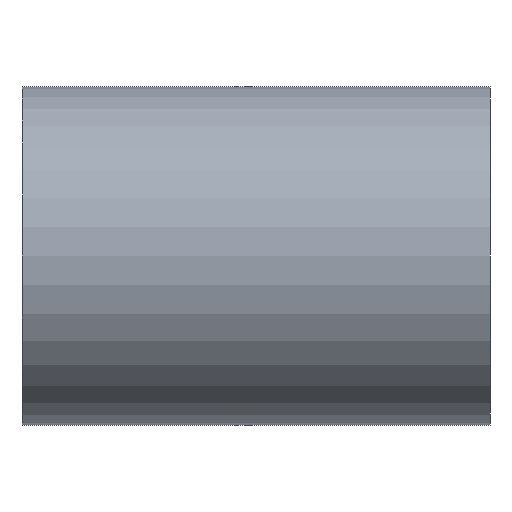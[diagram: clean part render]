
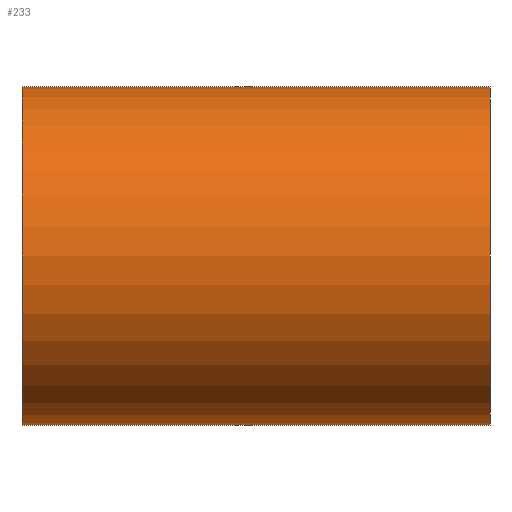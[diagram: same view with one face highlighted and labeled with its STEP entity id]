
A CAD part, left-side view. The second image highlights one B-rep face of the part: STEP entity #233.
In plain terms, the highlighted cylindrical face has radius 107.95 mm (diameter 215.9 mm), a partial arc.
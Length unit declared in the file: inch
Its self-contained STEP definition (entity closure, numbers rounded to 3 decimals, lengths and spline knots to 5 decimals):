
#8 = VERTEX_POINT ( 'NONE', #224 ) ;
#17 = AXIS2_PLACEMENT_3D ( 'NONE', #203, #185, #152 ) ;
#18 = CARTESIAN_POINT ( 'NONE',  ( 0., 11.75, -4.25 ) ) ;
#20 = VECTOR ( 'NONE', #111, 39.37008 ) ;
#44 = LINE ( 'NONE', #155, #20 ) ;
#51 = DIRECTION ( 'NONE',  ( 0., -1., 0. ) ) ;
#62 = AXIS2_PLACEMENT_3D ( 'NONE', #184, #90, #91 ) ;
#71 = EDGE_LOOP ( 'NONE', ( #85, #240, #109, #139 ) ) ;
#85 = ORIENTED_EDGE ( 'NONE', *, *, #121, .F. ) ;
#89 = VERTEX_POINT ( 'NONE', #226 ) ;
#90 = DIRECTION ( 'NONE',  ( 0., 1., 0. ) ) ;
#91 = DIRECTION ( 'NONE',  ( 0., 0., 1. ) ) ;
#95 = CARTESIAN_POINT ( 'NONE',  ( 0., 11.75, 0. ) ) ;
#105 = EDGE_CURVE ( 'NONE', #220, #89, #248, .T. ) ;
#109 = ORIENTED_EDGE ( 'NONE', *, *, #105, .T. ) ;
#111 = DIRECTION ( 'NONE',  ( 0., -1., 0. ) ) ;
#112 = CYLINDRICAL_SURFACE ( 'NONE', #126, 4.25 ) ;
#117 = DIRECTION ( 'NONE',  ( 0., 0., -1. ) ) ;
#120 = CIRCLE ( 'NONE', #62, 4.25 ) ;
#121 = EDGE_CURVE ( 'NONE', #149, #8, #44, .T. ) ;
#126 = AXIS2_PLACEMENT_3D ( 'NONE', #95, #230, #117 ) ;
#130 = EDGE_CURVE ( 'NONE', #89, #8, #243, .T. ) ;
#139 = ORIENTED_EDGE ( 'NONE', *, *, #130, .T. ) ;
#149 = VERTEX_POINT ( 'NONE', #186 ) ;
#152 = DIRECTION ( 'NONE',  ( 0., 0., 1. ) ) ;
#155 = CARTESIAN_POINT ( 'NONE',  ( 0., 11.75, 4.25 ) ) ;
#156 = FACE_OUTER_BOUND ( 'NONE', #71, .T. ) ;
#174 = CARTESIAN_POINT ( 'NONE',  ( 0., 11.75, -4.25 ) ) ;
#180 = EDGE_CURVE ( 'NONE', #220, #149, #120, .T. ) ;
#184 = CARTESIAN_POINT ( 'NONE',  ( 0., 11.75, 0. ) ) ;
#185 = DIRECTION ( 'NONE',  ( 0., 1., 0. ) ) ;
#186 = CARTESIAN_POINT ( 'NONE',  ( 0., 11.75, 4.25 ) ) ;
#203 = CARTESIAN_POINT ( 'NONE',  ( 0., 0., 0. ) ) ;
#214 = VECTOR ( 'NONE', #51, 39.37008 ) ;
#220 = VERTEX_POINT ( 'NONE', #18 ) ;
#224 = CARTESIAN_POINT ( 'NONE',  ( 0., 0., 4.25 ) ) ;
#226 = CARTESIAN_POINT ( 'NONE',  ( 0., 0., -4.25 ) ) ;
#230 = DIRECTION ( 'NONE',  ( 0., -1., 0. ) ) ;
#233 = ADVANCED_FACE ( 'NONE', ( #156 ), #112, .T. ) ;
#240 = ORIENTED_EDGE ( 'NONE', *, *, #180, .F. ) ;
#243 = CIRCLE ( 'NONE', #17, 4.25 ) ;
#248 = LINE ( 'NONE', #174, #214 ) ;
